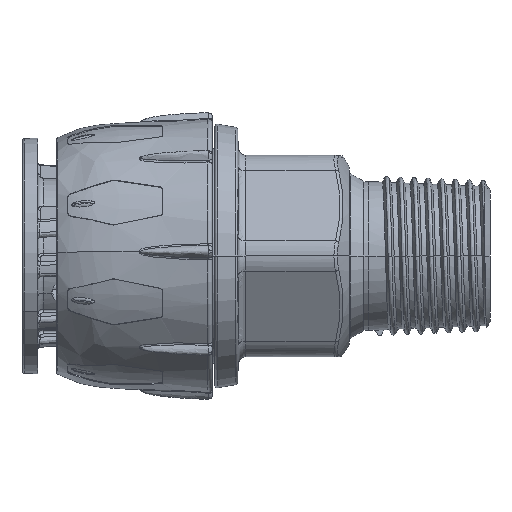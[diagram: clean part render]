
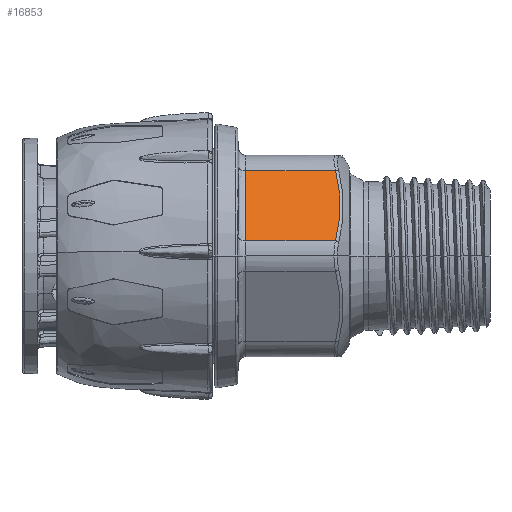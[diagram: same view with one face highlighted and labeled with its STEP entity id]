
A CAD part, front view. The second image highlights one B-rep face of the part: STEP entity #16853.
In plain terms, the highlighted planar face has unit normal (0, -0.866, 0.5).
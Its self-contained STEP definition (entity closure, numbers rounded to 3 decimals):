
#552 = CARTESIAN_POINT ( 'NONE',  ( 13.22, -13.263, 3.528 ) ) ;
#1357 = CARTESIAN_POINT ( 'NONE',  ( 13.064, -13.705, 2.763 ) ) ;
#12956 = CARTESIAN_POINT ( 'NONE',  ( 1.029, -8.805, 11.25 ) ) ;
#14267 = CARTESIAN_POINT ( 'NONE',  ( 14.7, -7.65, 13.25 ) ) ;
#15009 = EDGE_CURVE ( 'NONE', #46100, #24668, #82570, .T. ) ;
#16204 = EDGE_LOOP ( 'NONE', ( #68378, #129386, #85786, #123683 ) ) ;
#16853 = ADVANCED_FACE ( 'NONE', ( #127533 ), #26663, .F. ) ;
#21017 = CARTESIAN_POINT ( 'NONE',  ( 14.7, -14.145, 2. ) ) ;
#22380 = CARTESIAN_POINT ( 'NONE',  ( 1.051, -12.365, 5.083 ) ) ;
#22924 = CARTESIAN_POINT ( 'NONE',  ( 13.381, -10.362, 8.552 ) ) ;
#24668 = VERTEX_POINT ( 'NONE', #146823 ) ;
#25265 = CARTESIAN_POINT ( 'NONE',  ( 12.868, -8.805, 11.25 ) ) ;
#26663 = PLANE ( 'NONE',  #87593 ) ;
#31210 = CARTESIAN_POINT ( 'NONE',  ( 14.7, -8.805, 11.25 ) ) ;
#37443 = DIRECTION ( 'NONE',  ( 0., 0.866, -0.5 ) ) ;
#38456 = VECTOR ( 'NONE', #132075, 1000. ) ;
#39873 = VERTEX_POINT ( 'NONE', #159466 ) ;
#45810 = LINE ( 'NONE', #21017, #99946 ) ;
#46100 = VERTEX_POINT ( 'NONE', #12956 ) ;
#47200 = CARTESIAN_POINT ( 'NONE',  ( 1.029, -8.805, 11.25 ) ) ;
#64722 = DIRECTION ( 'NONE',  ( 0., 0.5, 0.866 ) ) ;
#68378 = ORIENTED_EDGE ( 'NONE', *, *, #104776, .T. ) ;
#72249 = DIRECTION ( 'NONE',  ( 1., 0., 0. ) ) ;
#72806 = CARTESIAN_POINT ( 'NONE',  ( 1.029, -14.145, 2. ) ) ;
#73991 = EDGE_CURVE ( 'NONE', #39873, #157207, #100357, .T. ) ;
#74971 = CARTESIAN_POINT ( 'NONE',  ( 13.488, -11.261, 6.996 ) ) ;
#82570 = B_SPLINE_CURVE_WITH_KNOTS ( 'NONE', 3,
 ( #47200, #148050, #22380, #72806 ),
 .UNSPECIFIED., .F., .F.,
 ( 4, 4 ),
 ( 0., 0.011 ),
 .UNSPECIFIED. ) ;
#85786 = ORIENTED_EDGE ( 'NONE', *, *, #145490, .T. ) ;
#87593 = AXIS2_PLACEMENT_3D ( 'NONE', #14267, #37443, #64722 ) ;
#98979 = CARTESIAN_POINT ( 'NONE',  ( 13.421, -10.588, 8.161 ) ) ;
#99812 = CARTESIAN_POINT ( 'NONE',  ( 13.475, -11.037, 7.384 ) ) ;
#99946 = VECTOR ( 'NONE', #72249, 1000. ) ;
#100357 = B_SPLINE_CURVE_WITH_KNOTS ( 'NONE', 3,
 ( #162633, #1357, #552, #102231, #151038, #74971, #99812, #98979, #22924, #124610, #127051, #111383 ),
 .UNSPECIFIED., .F., .F.,
 ( 4, 2, 2, 2, 2, 4 ),
 ( 0., 0.003, 0.005, 0.007, 0.008, 0.011 ),
 .UNSPECIFIED. ) ;
#102231 = CARTESIAN_POINT ( 'NONE',  ( 13.431, -12.376, 5.063 ) ) ;
#104776 = EDGE_CURVE ( 'NONE', #24668, #39873, #45810, .T. ) ;
#111383 = CARTESIAN_POINT ( 'NONE',  ( 12.868, -8.805, 11.25 ) ) ;
#123683 = ORIENTED_EDGE ( 'NONE', *, *, #15009, .T. ) ;
#124610 = CARTESIAN_POINT ( 'NONE',  ( 13.221, -9.69, 9.717 ) ) ;
#127051 = CARTESIAN_POINT ( 'NONE',  ( 13.065, -9.246, 10.486 ) ) ;
#127533 = FACE_OUTER_BOUND ( 'NONE', #16204, .T. ) ;
#129386 = ORIENTED_EDGE ( 'NONE', *, *, #73991, .T. ) ;
#132075 = DIRECTION ( 'NONE',  ( -1., 0., 0. ) ) ;
#145490 = EDGE_CURVE ( 'NONE', #157207, #46100, #146106, .T. ) ;
#146106 = LINE ( 'NONE', #31210, #38456 ) ;
#146823 = CARTESIAN_POINT ( 'NONE',  ( 1.029, -14.145, 2. ) ) ;
#148050 = CARTESIAN_POINT ( 'NONE',  ( 1.051, -10.585, 8.167 ) ) ;
#151038 = CARTESIAN_POINT ( 'NONE',  ( 13.487, -11.931, 5.834 ) ) ;
#157207 = VERTEX_POINT ( 'NONE', #25265 ) ;
#159466 = CARTESIAN_POINT ( 'NONE',  ( 12.868, -14.145, 2. ) ) ;
#162633 = CARTESIAN_POINT ( 'NONE',  ( 12.868, -14.145, 2. ) ) ;
